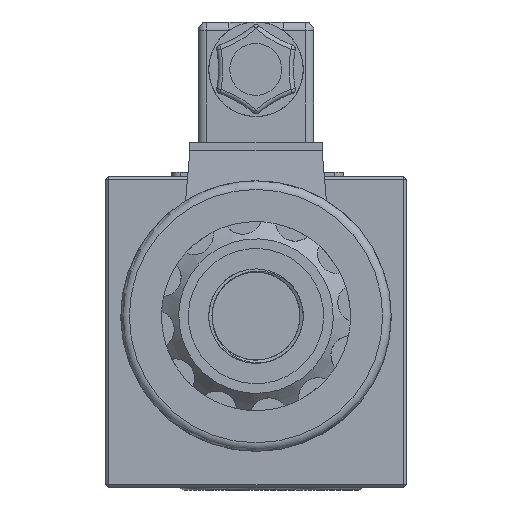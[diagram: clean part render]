
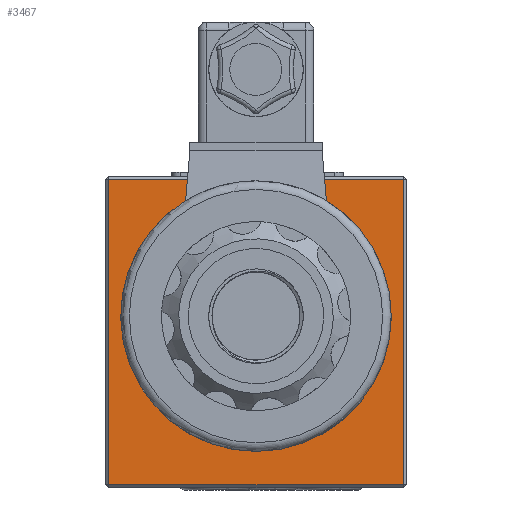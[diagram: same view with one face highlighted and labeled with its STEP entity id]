
A CAD part, left-side view. The second image highlights one B-rep face of the part: STEP entity #3467.
In plain terms, the highlighted planar face has unit normal (-1, 0, 0).
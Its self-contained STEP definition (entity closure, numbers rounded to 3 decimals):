
#3024=FACE_BOUND('',#5774,.T.);
#3025=FACE_BOUND('',#5775,.T.);
#3026=FACE_BOUND('',#5776,.T.);
#3027=FACE_BOUND('',#5777,.T.);
#3467=ADVANCED_FACE('',(#3024,#3025,#3026,#3027),#4364,.T.);
#4364=PLANE('',#18315);
#5774=EDGE_LOOP('',(#10205));
#5775=EDGE_LOOP('',(#10206));
#5776=EDGE_LOOP('',(#10207));
#5777=EDGE_LOOP('',(#10208,#10209,#10210,#10211));
#7080=LINE('',#24674,#8516);
#7081=LINE('',#24677,#8517);
#7082=LINE('',#24679,#8518);
#7083=LINE('',#24681,#8519);
#8516=VECTOR('',#20175,1.);
#8517=VECTOR('',#20176,1.);
#8518=VECTOR('',#20177,1.);
#8519=VECTOR('',#20178,1.);
#10205=ORIENTED_EDGE('',*,*,#15844,.T.);
#10206=ORIENTED_EDGE('',*,*,#15845,.T.);
#10207=ORIENTED_EDGE('',*,*,#15846,.T.);
#10208=ORIENTED_EDGE('',*,*,#15847,.T.);
#10209=ORIENTED_EDGE('',*,*,#15848,.T.);
#10210=ORIENTED_EDGE('',*,*,#15849,.T.);
#10211=ORIENTED_EDGE('',*,*,#15850,.T.);
#14315=VERTEX_POINT('',#24669);
#14316=VERTEX_POINT('',#24671);
#14317=VERTEX_POINT('',#24673);
#14318=VERTEX_POINT('',#24675);
#14319=VERTEX_POINT('',#24676);
#14320=VERTEX_POINT('',#24678);
#14321=VERTEX_POINT('',#24680);
#15844=EDGE_CURVE('',#14315,#14315,#17736,.T.);
#15845=EDGE_CURVE('',#14316,#14316,#17737,.T.);
#15846=EDGE_CURVE('',#14317,#14317,#17738,.T.);
#15847=EDGE_CURVE('',#14318,#14319,#7080,.T.);
#15848=EDGE_CURVE('',#14319,#14320,#7081,.T.);
#15849=EDGE_CURVE('',#14320,#14321,#7082,.T.);
#15850=EDGE_CURVE('',#14321,#14318,#7083,.T.);
#17736=CIRCLE('',#18312,1.8);
#17737=CIRCLE('',#18313,1.8);
#17738=CIRCLE('',#18314,1.8);
#18312=AXIS2_PLACEMENT_3D('',#24668,#20169,#20170);
#18313=AXIS2_PLACEMENT_3D('',#24670,#20171,#20172);
#18314=AXIS2_PLACEMENT_3D('',#24672,#20173,#20174);
#18315=AXIS2_PLACEMENT_3D('',#24682,#20179,#20180);
#20169=DIRECTION('',(1.,0.,0.));
#20170=DIRECTION('',(0.,0.,-1.));
#20171=DIRECTION('',(1.,0.,0.));
#20172=DIRECTION('',(0.,0.,-1.));
#20173=DIRECTION('',(1.,0.,0.));
#20174=DIRECTION('',(0.,0.,-1.));
#20175=DIRECTION('',(0.,0.,1.));
#20176=DIRECTION('',(0.,1.,0.));
#20177=DIRECTION('',(0.,0.,-1.));
#20178=DIRECTION('',(0.,-1.,0.));
#20179=DIRECTION('',(-1.,0.,0.));
#20180=DIRECTION('',(0.,0.,-1.));
#24668=CARTESIAN_POINT('',(0.,54.,-32.5));
#24669=CARTESIAN_POINT('',(0.,54.,-34.3));
#24670=CARTESIAN_POINT('',(0.,35.,-51.5));
#24671=CARTESIAN_POINT('',(0.,35.,-53.3));
#24672=CARTESIAN_POINT('',(0.,16.,-32.5));
#24673=CARTESIAN_POINT('',(0.,16.,-34.3));
#24674=CARTESIAN_POINT('',(0.,0.7,-72.5));
#24675=CARTESIAN_POINT('',(0.,0.7,-71.8));
#24676=CARTESIAN_POINT('',(0.,0.7,-0.7));
#24677=CARTESIAN_POINT('',(0.,70.,-0.7));
#24678=CARTESIAN_POINT('',(0.,69.3,-0.7));
#24679=CARTESIAN_POINT('',(0.,69.3,-72.5));
#24680=CARTESIAN_POINT('',(0.,69.3,-71.8));
#24681=CARTESIAN_POINT('',(0.,0.,-71.8));
#24682=CARTESIAN_POINT('',(0.,70.,-72.5));
